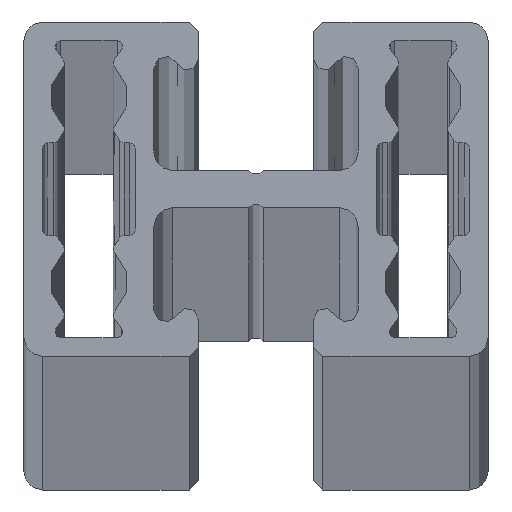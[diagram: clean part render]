
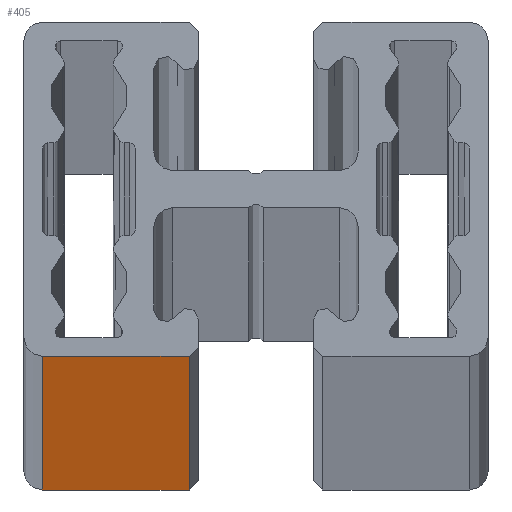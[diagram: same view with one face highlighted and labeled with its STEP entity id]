
A CAD part, top view. The second image highlights one B-rep face of the part: STEP entity #405.
In plain terms, the highlighted planar face has unit normal (0, -1, 0).
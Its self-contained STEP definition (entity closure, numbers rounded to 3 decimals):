
#405=ADVANCED_FACE('',(#784),#785,.T.);
#784=FACE_OUTER_BOUND('',#1169,.T.);
#785=PLANE('',#1170);
#1169=EDGE_LOOP('',(#2037,#2038,#2039,#2040));
#1170=AXIS2_PLACEMENT_3D('',#2041,#2042,#2043);
#2037=ORIENTED_EDGE('',*,*,#2866,.F.);
#2038=ORIENTED_EDGE('',*,*,#2867,.T.);
#2039=ORIENTED_EDGE('',*,*,#2868,.T.);
#2040=ORIENTED_EDGE('',*,*,#2765,.T.);
#2041=CARTESIAN_POINT('',(-11.5,-9.0,500.0));
#2042=DIRECTION('',(0.0,-1.0,0.0));
#2043=DIRECTION('',(0.0,0.0,-1.0));
#2765=EDGE_CURVE('',#3442,#3439,#3443,.T.);
#2866=EDGE_CURVE('',#3577,#3439,#3578,.T.);
#2867=EDGE_CURVE('',#3577,#3579,#3580,.T.);
#2868=EDGE_CURVE('',#3579,#3442,#3581,.T.);
#3439=VERTEX_POINT('',#4330);
#3442=VERTEX_POINT('',#4333);
#3443=LINE('',#4334,#4335);
#3577=VERTEX_POINT('',#4494);
#3578=LINE('',#4495,#4496);
#3579=VERTEX_POINT('',#4497);
#3580=LINE('',#4498,#4499);
#3581=LINE('',#4500,#4501);
#4330=CARTESIAN_POINT('',(-11.5,-9.0,-500.0));
#4333=CARTESIAN_POINT('',(-11.5,-9.0,3625.0));
#4334=CARTESIAN_POINT('',(-11.5,-9.0,500.0));
#4335=VECTOR('',#4992,1.0);
#4494=CARTESIAN_POINT('',(-3.6,-9.0,-500.0));
#4495=CARTESIAN_POINT('',(-11.5,-9.0,-500.0));
#4496=VECTOR('',#5159,1.0);
#4497=CARTESIAN_POINT('',(-3.6,-9.0,3625.0));
#4498=CARTESIAN_POINT('',(-3.6,-9.0,500.0));
#4499=VECTOR('',#5160,1.0);
#4500=CARTESIAN_POINT('',(-11.5,-9.0,3625.0));
#4501=VECTOR('',#5161,1.0);
#4992=DIRECTION('',(0.0,0.0,-1.0));
#5159=DIRECTION('',(-1.0,0.0,0.0));
#5160=DIRECTION('',(0.0,0.0,1.0));
#5161=DIRECTION('',(-1.0,0.0,0.0));
